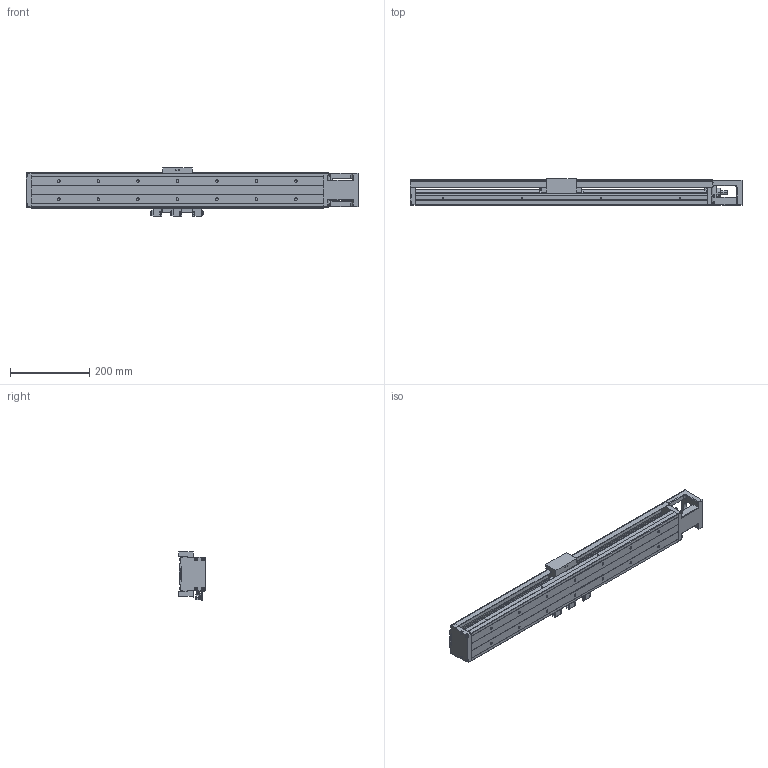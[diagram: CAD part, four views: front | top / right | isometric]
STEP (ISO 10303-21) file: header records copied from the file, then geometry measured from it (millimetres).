
FILE_DESCRIPTION (( 'STEP AP203' ), '1' );
FILE_NAME ('HKK86D20C-740A1-F0CS2.stp', '2021-11-30T03:26:20', ( '' ), ( '' ), 'SwSTEP 2.0', 'SolidWorks 2018', '' );
FILE_SCHEMA (( 'CONFIG_CONTROL_DESIGN' ));
Length unit declared in the file: millimetre
Products named in the file (1): HKK86D20C-740A1-F0CS2
Bounding box: 840 x 68 x 121.5 mm (x, y, z)
Volume: 2019006 mm3; surface area: 566162.3 mm2
Topology: 6 solids, 15 shells, 1383 faces, 3513 edges, 2226 vertices
Faces by surface type: plane 763, cylinder 445, cone 126, torus 32, sphere 9, bspline 8
Entity records: 41837 total; most frequent: CARTESIAN_POINT 8495, ORIENTED_EDGE 6894, DIRECTION 6883, EDGE_CURVE 3447, LINE 2297, VECTOR 2297, AXIS2_PLACEMENT_3D 2293, VERTEX_POINT 2222
